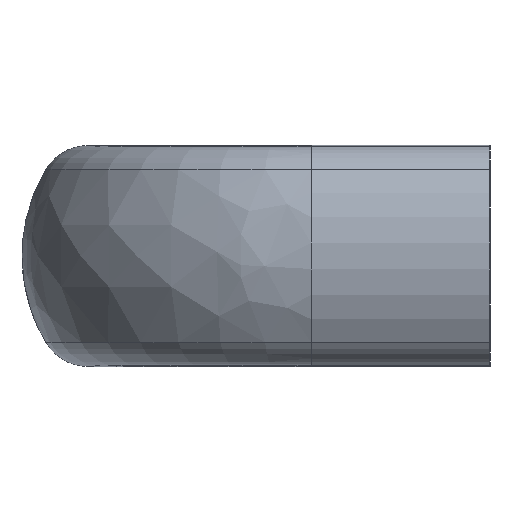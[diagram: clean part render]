
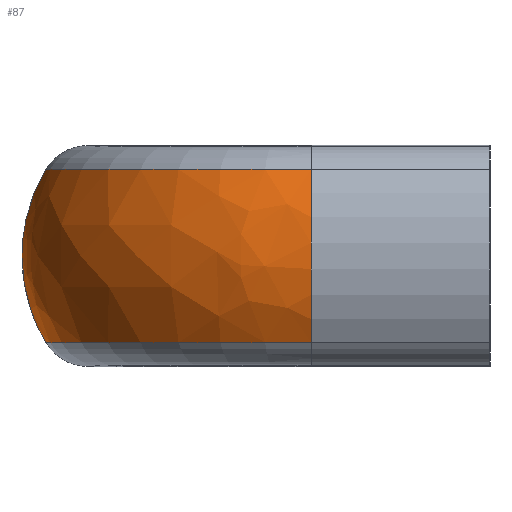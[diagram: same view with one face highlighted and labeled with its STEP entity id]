
A CAD part, left-side view. The second image highlights one B-rep face of the part: STEP entity #87.
In plain terms, the highlighted free-form (B-spline) face has degree [3, 3] with [4, 4] control points.
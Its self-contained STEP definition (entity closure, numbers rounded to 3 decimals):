
#87 = ADVANCED_FACE( '', ( #155 ), #156, .T. );
#155 = FACE_OUTER_BOUND( '', #265, .T. );
#156 = ( BOUNDED_SURFACE(  )B_SPLINE_SURFACE( 3, 3, ( ( #268, #269, #270, #271 ), ( #272, #273, #274, #275 ), ( #276, #277, #278, #279 ), ( #280, #281, #282, #283 ) ), .UNSPECIFIED., .F., .F., .F. )B_SPLINE_SURFACE_WITH_KNOTS( ( 4, 4 ), ( 4, 4 ), ( 1.571, 3.142 ), ( -0.537, 0.537 ), .UNSPECIFIED. )GEOMETRIC_REPRESENTATION_ITEM(  )RATIONAL_B_SPLINE_SURFACE( ( ( 1., 0.805, 0.805, 1. ), ( 0.906, 0.729, 0.729, 0.906 ), ( 0.906, 0.729, 0.729, 0.906 ), ( 1., 0.805, 0.805, 1. ) ) )REPRESENTATION_ITEM( '' )SURFACE(  ) );
#265 = EDGE_LOOP( '', ( #477, #478, #479, #480, #481 ) );
#268 = CARTESIAN_POINT( '', ( -33., 52.189, 10.177 ) );
#269 = CARTESIAN_POINT( '', ( -51.27, 52.189, 10.177 ) );
#270 = CARTESIAN_POINT( '', ( -64.189, 39.27, 10.177 ) );
#271 = CARTESIAN_POINT( '', ( -64.189, 21., 10.177 ) );
#272 = CARTESIAN_POINT( '', ( -33., 56.02, 3.744 ) );
#273 = CARTESIAN_POINT( '', ( -53.514, 56.02, 3.744 ) );
#274 = CARTESIAN_POINT( '', ( -68.02, 41.514, 3.744 ) );
#275 = CARTESIAN_POINT( '', ( -68.02, 21., 3.744 ) );
#276 = CARTESIAN_POINT( '', ( -33., 56.02, -3.744 ) );
#277 = CARTESIAN_POINT( '', ( -53.514, 56.02, -3.744 ) );
#278 = CARTESIAN_POINT( '', ( -68.02, 41.514, -3.744 ) );
#279 = CARTESIAN_POINT( '', ( -68.02, 21., -3.744 ) );
#280 = CARTESIAN_POINT( '', ( -33., 52.189, -10.177 ) );
#281 = CARTESIAN_POINT( '', ( -51.27, 52.189, -10.177 ) );
#282 = CARTESIAN_POINT( '', ( -64.189, 39.27, -10.177 ) );
#283 = CARTESIAN_POINT( '', ( -64.189, 21., -10.177 ) );
#477 = ORIENTED_EDGE( '', *, *, #834, .T. );
#478 = ORIENTED_EDGE( '', *, *, #835, .F. );
#479 = ORIENTED_EDGE( '', *, *, #836, .F. );
#480 = ORIENTED_EDGE( '', *, *, #806, .T. );
#481 = ORIENTED_EDGE( '', *, *, #805, .T. );
#805 = EDGE_CURVE( '', #941, #942, #943, .T. );
#806 = EDGE_CURVE( '', #944, #941, #945, .T. );
#834 = EDGE_CURVE( '', #942, #994, #996, .T. );
#835 = EDGE_CURVE( '', #997, #994, #998, .T. );
#836 = EDGE_CURVE( '', #944, #997, #999, .T. );
#941 = VERTEX_POINT( '', #1149 );
#942 = VERTEX_POINT( '', #1150 );
#943 = B_SPLINE_CURVE_WITH_KNOTS( '', 3, ( #1151, #1152, #1153, #1154, #1155, #1156 ), .UNSPECIFIED., .F., .F., ( 4, 2, 4 ), ( 0., 0.5, 1. ), .UNSPECIFIED. );
#944 = VERTEX_POINT( '', #1157 );
#945 = B_SPLINE_CURVE_WITH_KNOTS( '', 3, ( #1158, #1159, #1160, #1161, #1162, #1163 ), .UNSPECIFIED., .F., .F., ( 4, 2, 4 ), ( 0., 0.5, 1. ), .UNSPECIFIED. );
#994 = VERTEX_POINT( '', #1246 );
#996 = CIRCLE( '', #1248, 31.189 );
#997 = VERTEX_POINT( '', #1249 );
#998 = CIRCLE( '', #1250, 19.889 );
#999 = CIRCLE( '', #1251, 31.189 );
#1149 = CARTESIAN_POINT( '', ( -33., 54.995, 0.043 ) );
#1150 = CARTESIAN_POINT( '', ( -33., 52.189, -10.184 ) );
#1151 = CARTESIAN_POINT( '', ( -33., 54.99, 0.043 ) );
#1152 = CARTESIAN_POINT( '', ( -33., 54.994, -1.745 ) );
#1153 = CARTESIAN_POINT( '', ( -33., 54.755, -3.533 ) );
#1154 = CARTESIAN_POINT( '', ( -33., 53.81, -6.981 ) );
#1155 = CARTESIAN_POINT( '', ( -33., 53.104, -8.641 ) );
#1156 = CARTESIAN_POINT( '', ( -33., 52.189, -10.177 ) );
#1157 = CARTESIAN_POINT( '', ( -33., 52.188, 10.185 ) );
#1158 = CARTESIAN_POINT( '', ( -33., 52.189, 10.177 ) );
#1159 = CARTESIAN_POINT( '', ( -33., 53.097, 8.653 ) );
#1160 = CARTESIAN_POINT( '', ( -33., 53.799, 7.008 ) );
#1161 = CARTESIAN_POINT( '', ( -33., 54.744, 3.589 ) );
#1162 = CARTESIAN_POINT( '', ( -33., 54.986, 1.816 ) );
#1163 = CARTESIAN_POINT( '', ( -33., 54.99, 0.043 ) );
#1246 = CARTESIAN_POINT( '', ( -64.189, 21., -10.177 ) );
#1248 = AXIS2_PLACEMENT_3D( '', #1481, #1482, #1483 );
#1249 = CARTESIAN_POINT( '', ( -64.189, 21., 10.177 ) );
#1250 = AXIS2_PLACEMENT_3D( '', #1484, #1485, #1486 );
#1251 = AXIS2_PLACEMENT_3D( '', #1487, #1488, #1489 );
#1481 = CARTESIAN_POINT( '', ( -33., 21., -10.177 ) );
#1482 = DIRECTION( '', ( 0., 0., 1. ) );
#1483 = DIRECTION( '', ( 1., 0., 0. ) );
#1484 = CARTESIAN_POINT( '', ( -47.101, 21., 0. ) );
#1485 = DIRECTION( '', ( 0., -1., 0. ) );
#1486 = DIRECTION( '', ( 0., 0., 1. ) );
#1487 = CARTESIAN_POINT( '', ( -33., 21., 10.177 ) );
#1488 = DIRECTION( '', ( 0., 0., 1. ) );
#1489 = DIRECTION( '', ( 1., 0., 0. ) );
